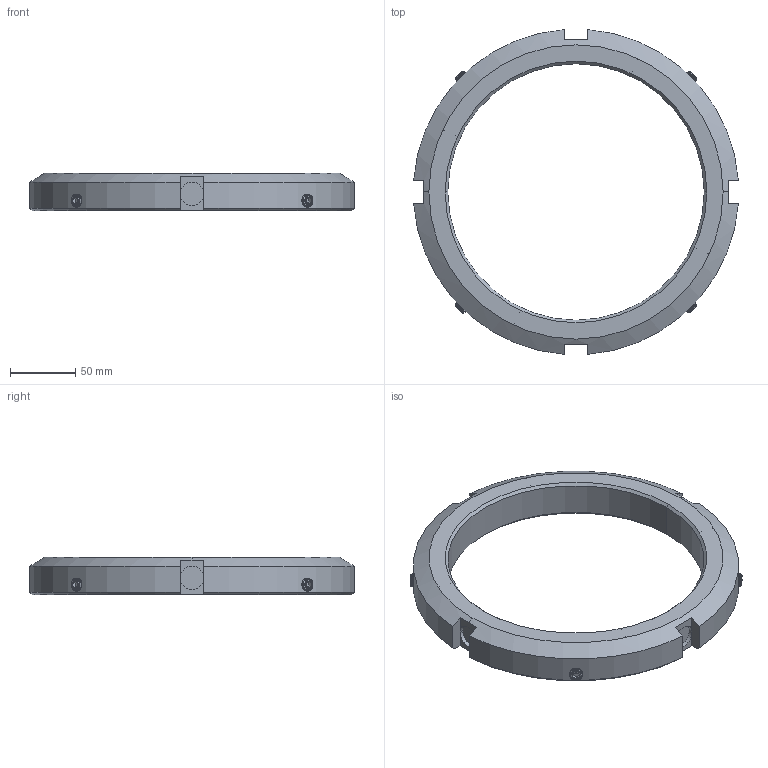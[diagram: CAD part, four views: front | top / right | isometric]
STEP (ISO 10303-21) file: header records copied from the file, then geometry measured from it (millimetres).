
FILE_DESCRIPTION (( 'STEP AP214' ), '1' );
FILE_NAME ('TLNKM 40 PH.STEP', '2011-08-08T01:06:04', ( '' ), ( '' ), 'SwSTEP 2.0', 'SolidWorks 2010', '' );
FILE_SCHEMA (( 'AUTOMOTIVE_DESIGN' ));
Length unit declared in the file: millimetre
Products named in the file (3): TLNKM 40; 92605A166_92605A166; TLNKM 40 PH
Assembly tree (5 placements, depth 2):
  TLNKM 40 PH
    TLNKM 40
    92605A166_92605A166  x4
Bounding box: 249.34 x 249.34 x 29 mm (x, y, z)
Volume: 412137.8 mm3; surface area: 97048.8 mm2
Topology: 5 solids, 5 shells, 430 faces, 1188 edges, 768 vertices
Faces by surface type: cylinder 306, plane 62, cone 54, bspline 8
Entity records: 8761 total; most frequent: CARTESIAN_POINT 4740, ORIENTED_EDGE 918, DIRECTION 755, EDGE_CURVE 459, VERTEX_POINT 294, AXIS2_PLACEMENT_3D 293, EDGE_LOOP 181, VECTOR 169
